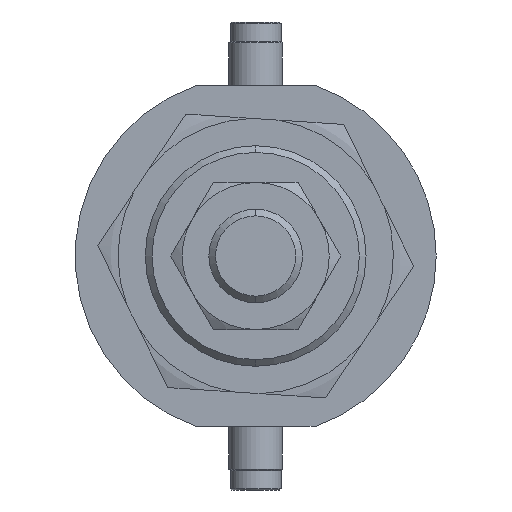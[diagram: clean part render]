
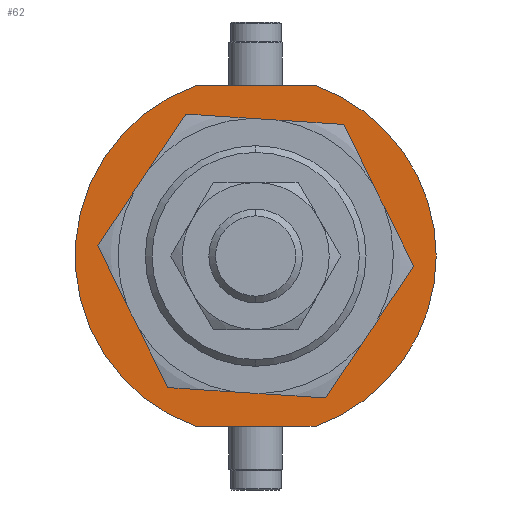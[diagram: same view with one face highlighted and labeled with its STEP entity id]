
A CAD part, left-side view. The second image highlights one B-rep face of the part: STEP entity #62.
In plain terms, the highlighted planar face has unit normal (-1, 0, 0) as drawn and (0, 1, 0) by its records, which use the part's own axes.
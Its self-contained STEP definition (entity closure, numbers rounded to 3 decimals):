
#62 = ADVANCED_FACE ( 'NONE', ( #2300, #2094 ), #2861, .T. ) ;
#77 = AXIS2_PLACEMENT_3D ( 'NONE', #1954, #3000, #2505 ) ;
#85 = CARTESIAN_POINT ( 'NONE',  ( 0., 4.5, -16.5 ) ) ;
#132 = EDGE_CURVE ( 'NONE', #1490, #1377, #1261, .T. ) ;
#136 = DIRECTION ( 'NONE',  ( 0., 1., 0. ) ) ;
#205 = DIRECTION ( 'NONE',  ( 0., 1., 0. ) ) ;
#219 = AXIS2_PLACEMENT_3D ( 'NONE', #862, #2293, #3630 ) ;
#272 = LINE ( 'NONE', #2722, #460 ) ;
#352 = CARTESIAN_POINT ( 'NONE',  ( 0., 4.5, 0. ) ) ;
#460 = VECTOR ( 'NONE', #863, 1000. ) ;
#555 = CARTESIAN_POINT ( 'NONE',  ( 0., 4.5, 16.5 ) ) ;
#615 = EDGE_LOOP ( 'NONE', ( #1488, #1446, #3496, #1304, #3707 ) ) ;
#692 = EDGE_CURVE ( 'NONE', #1701, #2793, #272, .T. ) ;
#741 = VERTEX_POINT ( 'NONE', #2730 ) ;
#862 = CARTESIAN_POINT ( 'NONE',  ( 0., 4.5, 0. ) ) ;
#863 = DIRECTION ( 'NONE',  ( 0., 0., -1. ) ) ;
#1207 = CARTESIAN_POINT ( 'NONE',  ( 0., 4.5, 0. ) ) ;
#1236 = CIRCLE ( 'NONE', #2977, 27. ) ;
#1261 = CIRCLE ( 'NONE', #219, 16.5 ) ;
#1304 = ORIENTED_EDGE ( 'NONE', *, *, #4168, .T. ) ;
#1377 = VERTEX_POINT ( 'NONE', #555 ) ;
#1412 = DIRECTION ( 'NONE',  ( 0., 1., 0. ) ) ;
#1446 = ORIENTED_EDGE ( 'NONE', *, *, #2172, .T. ) ;
#1463 = LINE ( 'NONE', #4150, #3943 ) ;
#1488 = ORIENTED_EDGE ( 'NONE', *, *, #3110, .T. ) ;
#1490 = VERTEX_POINT ( 'NONE', #85 ) ;
#1516 = ORIENTED_EDGE ( 'NONE', *, *, #132, .F. ) ;
#1701 = VERTEX_POINT ( 'NONE', #2856 ) ;
#1886 = EDGE_LOOP ( 'NONE', ( #4003, #1516 ) ) ;
#1954 = CARTESIAN_POINT ( 'NONE',  ( 0., 4.5, 0. ) ) ;
#2094 = FACE_OUTER_BOUND ( 'NONE', #615, .T. ) ;
#2124 = AXIS2_PLACEMENT_3D ( 'NONE', #1207, #136, #3700 ) ;
#2172 = EDGE_CURVE ( 'NONE', #741, #2576, #1463, .T. ) ;
#2175 = DIRECTION ( 'NONE',  ( 0., 0., 1. ) ) ;
#2206 = DIRECTION ( 'NONE',  ( 0., 0., 1. ) ) ;
#2252 = EDGE_CURVE ( 'NONE', #2576, #4105, #2718, .T. ) ;
#2293 = DIRECTION ( 'NONE',  ( 0., 1., 0. ) ) ;
#2300 = FACE_BOUND ( 'NONE', #1886, .T. ) ;
#2472 = CIRCLE ( 'NONE', #3340, 16.5 ) ;
#2505 = DIRECTION ( 'NONE',  ( 0., 0., 1. ) ) ;
#2576 = VERTEX_POINT ( 'NONE', #4127 ) ;
#2702 = CARTESIAN_POINT ( 'NONE',  ( 25.5, 4.5, -8.874 ) ) ;
#2718 = CIRCLE ( 'NONE', #77, 27. ) ;
#2722 = CARTESIAN_POINT ( 'NONE',  ( 25.5, 4.5, -8.874 ) ) ;
#2730 = CARTESIAN_POINT ( 'NONE',  ( -25.5, 4.5, -8.874 ) ) ;
#2793 = VERTEX_POINT ( 'NONE', #2702 ) ;
#2856 = CARTESIAN_POINT ( 'NONE',  ( 25.5, 4.5, 8.874 ) ) ;
#2861 = PLANE ( 'NONE',  #2124 ) ;
#2871 = CIRCLE ( 'NONE', #3520, 27. ) ;
#2977 = AXIS2_PLACEMENT_3D ( 'NONE', #352, #1412, #3909 ) ;
#3000 = DIRECTION ( 'NONE',  ( 0., 1., 0. ) ) ;
#3110 = EDGE_CURVE ( 'NONE', #2793, #741, #2871, .T. ) ;
#3340 = AXIS2_PLACEMENT_3D ( 'NONE', #3511, #205, #4047 ) ;
#3460 = DIRECTION ( 'NONE',  ( 0., 1., 0. ) ) ;
#3496 = ORIENTED_EDGE ( 'NONE', *, *, #2252, .T. ) ;
#3511 = CARTESIAN_POINT ( 'NONE',  ( 0., 4.5, 0. ) ) ;
#3520 = AXIS2_PLACEMENT_3D ( 'NONE', #3868, #3460, #2175 ) ;
#3630 = DIRECTION ( 'NONE',  ( 0., 0., 1. ) ) ;
#3700 = DIRECTION ( 'NONE',  ( 0., 0., 1. ) ) ;
#3707 = ORIENTED_EDGE ( 'NONE', *, *, #692, .T. ) ;
#3795 = CARTESIAN_POINT ( 'NONE',  ( 0., 4.5, 27. ) ) ;
#3868 = CARTESIAN_POINT ( 'NONE',  ( 0., 4.5, 0. ) ) ;
#3909 = DIRECTION ( 'NONE',  ( 0., 0., 1. ) ) ;
#3943 = VECTOR ( 'NONE', #2206, 1000. ) ;
#4003 = ORIENTED_EDGE ( 'NONE', *, *, #4271, .F. ) ;
#4047 = DIRECTION ( 'NONE',  ( 0., 0., 1. ) ) ;
#4105 = VERTEX_POINT ( 'NONE', #3795 ) ;
#4127 = CARTESIAN_POINT ( 'NONE',  ( -25.5, 4.5, 8.874 ) ) ;
#4150 = CARTESIAN_POINT ( 'NONE',  ( -25.5, 4.5, -8.874 ) ) ;
#4168 = EDGE_CURVE ( 'NONE', #4105, #1701, #1236, .T. ) ;
#4271 = EDGE_CURVE ( 'NONE', #1377, #1490, #2472, .T. ) ;
